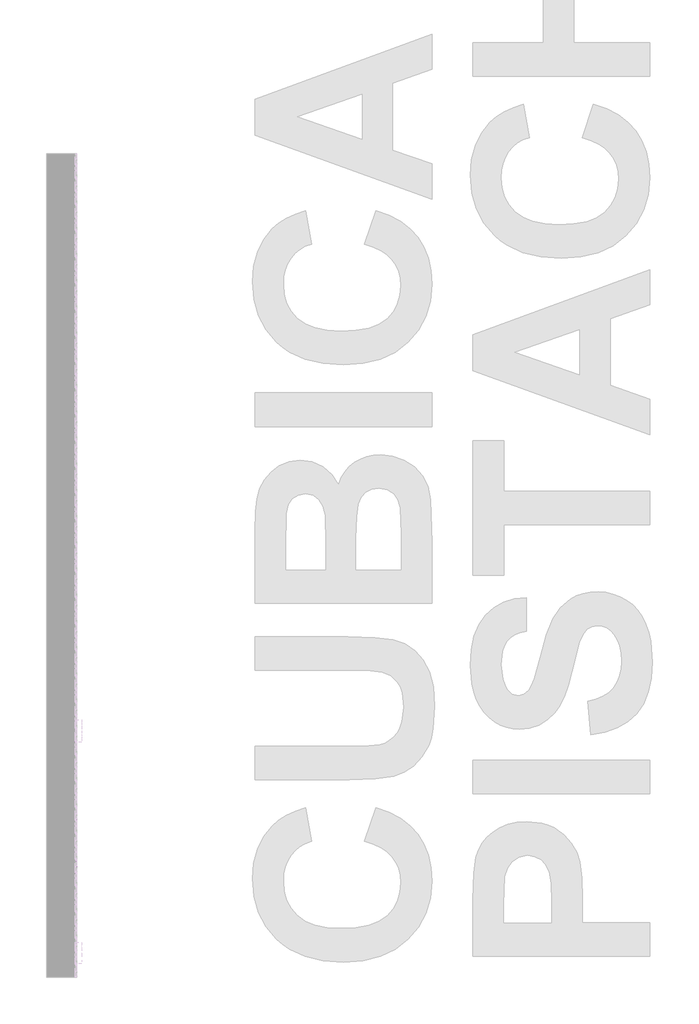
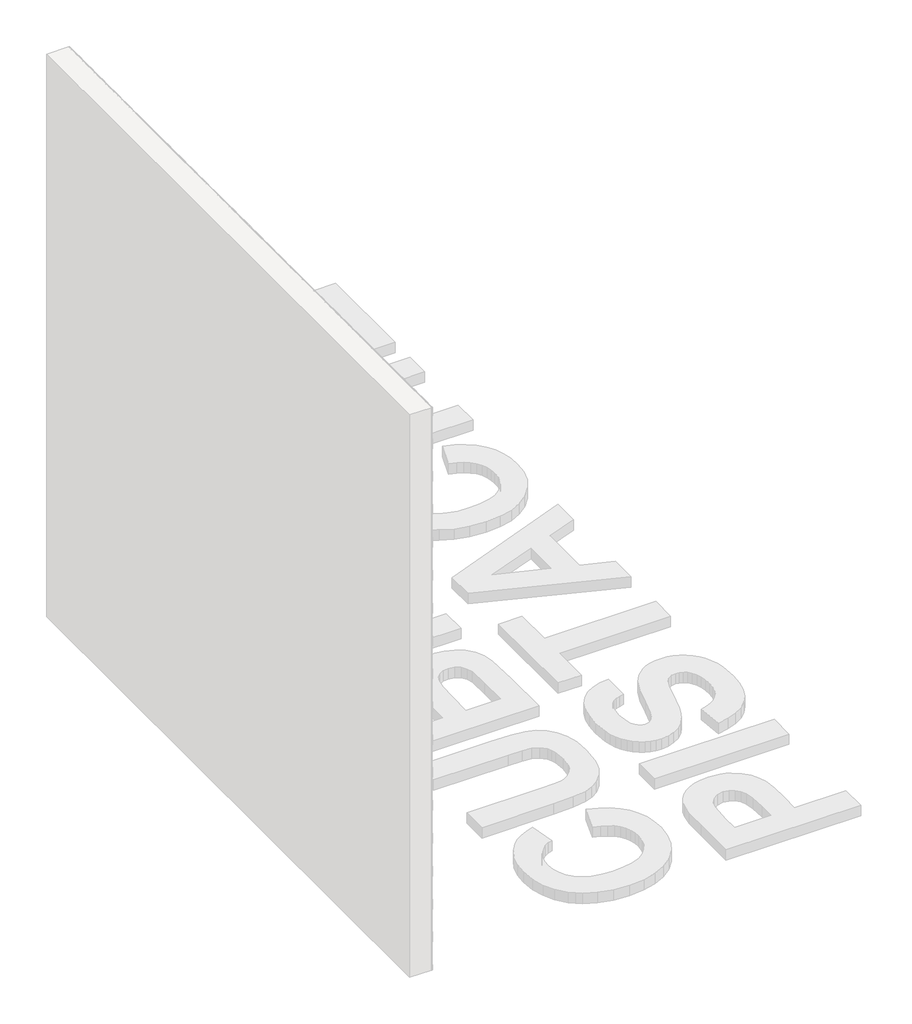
# One storey, part 80 of 121: 145 proxies.
"""IFC4 building model written with IfcOpenShell, lengths in millimetres."""

from ifc_helpers import new_model, si_unit, origin, place, context, project, spatial, transform, mapped, element, save
from components import generic_models_b2b2c5c1, generic_models_9bf73f6f, generic_models_5d175859

model = new_model("IFC4")

# Units and contexts
model_context = context("Model", 3, world=origin())
ifc_project = project(units=[si_unit("LENGTHUNIT", "METRE", prefix="MILLI")], contexts=[model_context])

# Site, building, storey
site = spatial("IfcSite", under=ifc_project)
building = spatial("IfcBuilding", under=site)
storey = spatial("IfcBuildingStorey", under=building, Name="PORTOBELLO - SHOWROOM", Elevation=0.0)

# Proxies
placement = place(None, origin())
generic_models_shape = generic_models_b2b2c5c1(model_context)
element("IfcBuildingElementProxy", 1, Name="PBSHOP - CUBICA PISTACHE 4,8X8,3 : CUBICA PISTACHE - POSIÇÃO 01", ObjectType="PBSHOP - CUBICA PISTACHE 4,8X8,3 : CUBICA PISTACHE - POSIÇÃO 01", at=placement, inside=storey, context=model_context, shape_type="MappedRepresentation", body=[
    mapped(generic_models_shape, transform((150369.5341846, 13296.1637264, 1539.1802959), x_axis=(0.0, 1.0, 0.0), y_axis=(0.0, 0.0, 1.0), z_axis=(1.0, 0.0, 0.0))),
])
element("IfcBuildingElementProxy", 2, Name="PBSHOP - CUBICA PISTACHE 4,8X8,3 : CUBICA PISTACHE - POSIÇÃO 01", ObjectType="PBSHOP - CUBICA PISTACHE 4,8X8,3 : CUBICA PISTACHE - POSIÇÃO 01", at=placement, inside=storey, context=model_context, shape_type="MappedRepresentation", body=[
    mapped(generic_models_shape, transform((150369.5341846, 13387.0029957, 1539.1802959), x_axis=(0.0, 1.0, 0.0), y_axis=(0.0, 0.0, 1.0), z_axis=(1.0, 0.0, 0.0))),
])
element("IfcBuildingElementProxy", 3, Name="PBSHOP - CUBICA PISTACHE 4,8X8,3 : CUBICA PISTACHE - POSIÇÃO 01", ObjectType="PBSHOP - CUBICA PISTACHE 4,8X8,3 : CUBICA PISTACHE - POSIÇÃO 01", at=placement, inside=storey, context=model_context, shape_type="MappedRepresentation", body=[
    mapped(generic_models_shape, transform((150369.5341846, 13477.8422649, 1539.1802959), x_axis=(0.0, 1.0, 0.0), y_axis=(0.0, 0.0, 1.0), z_axis=(1.0, 0.0, 0.0))),
])
element("IfcBuildingElementProxy", 4, Name="PBSHOP - CUBICA PISTACHE 4,8X8,3 : CUBICA PISTACHE - POSIÇÃO 01", ObjectType="PBSHOP - CUBICA PISTACHE 4,8X8,3 : CUBICA PISTACHE - POSIÇÃO 01", at=placement, inside=storey, context=model_context, shape_type="MappedRepresentation", body=[
    mapped(generic_models_shape, transform((150369.5341846, 13568.6815341, 1539.1802959), x_axis=(0.0, 1.0, 0.0), y_axis=(0.0, 0.0, 1.0), z_axis=(1.0, 0.0, 0.0))),
])
element("IfcBuildingElementProxy", 5, Name="PBSHOP - CUBICA PISTACHE 4,8X8,3 : CUBICA PISTACHE - POSIÇÃO 01", ObjectType="PBSHOP - CUBICA PISTACHE 4,8X8,3 : CUBICA PISTACHE - POSIÇÃO 01", at=placement, inside=storey, context=model_context, shape_type="MappedRepresentation", body=[
    mapped(generic_models_shape, transform((150369.5341846, 13659.5208034, 1539.1802959), x_axis=(0.0, 1.0, 0.0), y_axis=(0.0, 0.0, 1.0), z_axis=(1.0, 0.0, 0.0))),
])
element("IfcBuildingElementProxy", 6, Name="PBSHOP - CUBICA PISTACHE 4,8X8,3 : CUBICA PISTACHE - POSIÇÃO 01", ObjectType="PBSHOP - CUBICA PISTACHE 4,8X8,3 : CUBICA PISTACHE - POSIÇÃO 01", at=placement, inside=storey, context=model_context, shape_type="MappedRepresentation", body=[
    mapped(generic_models_shape, transform((150369.5341846, 13750.3600726, 1539.1802959), x_axis=(0.0, 1.0, 0.0), y_axis=(0.0, 0.0, 1.0), z_axis=(1.0, 0.0, 0.0))),
])
element("IfcBuildingElementProxy", 7, Name="PBSHOP - CUBICA PISTACHE 4,8X8,3 : CUBICA PISTACHE - POSIÇÃO 01", ObjectType="PBSHOP - CUBICA PISTACHE 4,8X8,3 : CUBICA PISTACHE - POSIÇÃO 01", at=placement, inside=storey, context=model_context, shape_type="MappedRepresentation", body=[
    mapped(generic_models_shape, transform((150369.5341846, 13841.1993419, 1539.1802959), x_axis=(0.0, 1.0, 0.0), y_axis=(0.0, 0.0, 1.0), z_axis=(1.0, 0.0, 0.0))),
])
element("IfcBuildingElementProxy", 8, Name="PBSHOP - CUBICA PISTACHE 4,8X8,3 : CUBICA PISTACHE - POSIÇÃO 01", ObjectType="PBSHOP - CUBICA PISTACHE 4,8X8,3 : CUBICA PISTACHE - POSIÇÃO 01", at=placement, inside=storey, context=model_context, shape_type="MappedRepresentation", body=[
    mapped(generic_models_shape, transform((150369.5341846, 13932.0386111, 1539.1802959), x_axis=(0.0, 1.0, 0.0), y_axis=(0.0, 0.0, 1.0), z_axis=(1.0, 0.0, 0.0))),
])
element("IfcBuildingElementProxy", 9, Name="PBSHOP - CUBICA PISTACHE 4,8X8,3 : CUBICA PISTACHE - POSIÇÃO 01", ObjectType="PBSHOP - CUBICA PISTACHE 4,8X8,3 : CUBICA PISTACHE - POSIÇÃO 01", at=placement, inside=storey, context=model_context, shape_type="MappedRepresentation", body=[
    mapped(generic_models_shape, transform((150369.5341846, 13069.0655533, 1618.1149343), x_axis=(0.0, 1.0, 0.0), y_axis=(0.0, 0.0, 1.0), z_axis=(1.0, 0.0, 0.0))),
])
element("IfcBuildingElementProxy", 10, Name="PBSHOP - CUBICA PISTACHE 4,8X8,3 : CUBICA PISTACHE - POSIÇÃO 01", ObjectType="PBSHOP - CUBICA PISTACHE 4,8X8,3 : CUBICA PISTACHE - POSIÇÃO 01", at=placement, inside=storey, context=model_context, shape_type="MappedRepresentation", body=[
    mapped(generic_models_shape, transform((150369.5341846, 13159.9048225, 1618.1149343), x_axis=(0.0, 1.0, 0.0), y_axis=(0.0, 0.0, 1.0), z_axis=(1.0, 0.0, 0.0))),
])
element("IfcBuildingElementProxy", 11, Name="PBSHOP - CUBICA PISTACHE 4,8X8,3 : CUBICA PISTACHE - POSIÇÃO 01", ObjectType="PBSHOP - CUBICA PISTACHE 4,8X8,3 : CUBICA PISTACHE - POSIÇÃO 01", at=placement, inside=storey, context=model_context, shape_type="MappedRepresentation", body=[
    mapped(generic_models_shape, transform((150369.5341846, 13250.7440918, 1618.1149343), x_axis=(0.0, 1.0, 0.0), y_axis=(0.0, 0.0, 1.0), z_axis=(1.0, 0.0, 0.0))),
])
element("IfcBuildingElementProxy", 12, Name="PBSHOP - CUBICA PISTACHE 4,8X8,3 : CUBICA PISTACHE - POSIÇÃO 01", ObjectType="PBSHOP - CUBICA PISTACHE 4,8X8,3 : CUBICA PISTACHE - POSIÇÃO 01", at=placement, inside=storey, context=model_context, shape_type="MappedRepresentation", body=[
    mapped(generic_models_shape, transform((150369.5341846, 13341.583361, 1618.1149343), x_axis=(0.0, 1.0, 0.0), y_axis=(0.0, 0.0, 1.0), z_axis=(1.0, 0.0, 0.0))),
])
element("IfcBuildingElementProxy", 13, Name="PBSHOP - CUBICA PISTACHE 4,8X8,3 : CUBICA PISTACHE - POSIÇÃO 01", ObjectType="PBSHOP - CUBICA PISTACHE 4,8X8,3 : CUBICA PISTACHE - POSIÇÃO 01", at=placement, inside=storey, context=model_context, shape_type="MappedRepresentation", body=[
    mapped(generic_models_shape, transform((150369.5341846, 13432.4226303, 1618.1149343), x_axis=(0.0, 1.0, 0.0), y_axis=(0.0, 0.0, 1.0), z_axis=(1.0, 0.0, 0.0))),
])
element("IfcBuildingElementProxy", 14, Name="PBSHOP - CUBICA PISTACHE 4,8X8,3 : CUBICA PISTACHE - POSIÇÃO 01", ObjectType="PBSHOP - CUBICA PISTACHE 4,8X8,3 : CUBICA PISTACHE - POSIÇÃO 01", at=placement, inside=storey, context=model_context, shape_type="MappedRepresentation", body=[
    mapped(generic_models_shape, transform((150369.5341846, 13523.2618995, 1618.1149343), x_axis=(0.0, 1.0, 0.0), y_axis=(0.0, 0.0, 1.0), z_axis=(1.0, 0.0, 0.0))),
])
element("IfcBuildingElementProxy", 15, Name="PBSHOP - CUBICA PISTACHE 4,8X8,3 : CUBICA PISTACHE - POSIÇÃO 01", ObjectType="PBSHOP - CUBICA PISTACHE 4,8X8,3 : CUBICA PISTACHE - POSIÇÃO 01", at=placement, inside=storey, context=model_context, shape_type="MappedRepresentation", body=[
    mapped(generic_models_shape, transform((150369.5341846, 13614.1011688, 1618.1149343), x_axis=(0.0, 1.0, 0.0), y_axis=(0.0, 0.0, 1.0), z_axis=(1.0, 0.0, 0.0))),
])
element("IfcBuildingElementProxy", 16, Name="PBSHOP - CUBICA PISTACHE 4,8X8,3 : CUBICA PISTACHE - POSIÇÃO 01", ObjectType="PBSHOP - CUBICA PISTACHE 4,8X8,3 : CUBICA PISTACHE - POSIÇÃO 01", at=placement, inside=storey, context=model_context, shape_type="MappedRepresentation", body=[
    mapped(generic_models_shape, transform((150369.5341846, 13704.940438, 1618.1149343), x_axis=(0.0, 1.0, 0.0), y_axis=(0.0, 0.0, 1.0), z_axis=(1.0, 0.0, 0.0))),
])
element("IfcBuildingElementProxy", 17, Name="PBSHOP - CUBICA PISTACHE 4,8X8,3 : CUBICA PISTACHE - POSIÇÃO 01", ObjectType="PBSHOP - CUBICA PISTACHE 4,8X8,3 : CUBICA PISTACHE - POSIÇÃO 01", at=placement, inside=storey, context=model_context, shape_type="MappedRepresentation", body=[
    mapped(generic_models_shape, transform((150369.5341846, 13795.7797073, 1618.1149343), x_axis=(0.0, 1.0, 0.0), y_axis=(0.0, 0.0, 1.0), z_axis=(1.0, 0.0, 0.0))),
])
element("IfcBuildingElementProxy", 18, Name="PBSHOP - CUBICA PISTACHE 4,8X8,3 : CUBICA PISTACHE - POSIÇÃO 01", ObjectType="PBSHOP - CUBICA PISTACHE 4,8X8,3 : CUBICA PISTACHE - POSIÇÃO 01", at=placement, inside=storey, context=model_context, shape_type="MappedRepresentation", body=[
    mapped(generic_models_shape, transform((150369.5341846, 13886.6189765, 1618.1149343), x_axis=(0.0, 1.0, 0.0), y_axis=(0.0, 0.0, 1.0), z_axis=(1.0, 0.0, 0.0))),
])
element("IfcBuildingElementProxy", 19, Name="PBSHOP - CUBICA PISTACHE 4,8X8,3 : CUBICA PISTACHE - POSIÇÃO 01", ObjectType="PBSHOP - CUBICA PISTACHE 4,8X8,3 : CUBICA PISTACHE - POSIÇÃO 01", at=placement, inside=storey, context=model_context, shape_type="MappedRepresentation", body=[
    mapped(generic_models_shape, transform((150369.5341846, 13977.4582457, 1618.1149343), x_axis=(0.0, 1.0, 0.0), y_axis=(0.0, 0.0, 1.0), z_axis=(1.0, 0.0, 0.0))),
])
element("IfcBuildingElementProxy", 20, Name="PBSHOP - CUBICA PISTACHE 4,8X8,3 : CUBICA PISTACHE - POSIÇÃO 01", ObjectType="PBSHOP - CUBICA PISTACHE 4,8X8,3 : CUBICA PISTACHE - POSIÇÃO 01", at=placement, inside=storey, context=model_context, shape_type="MappedRepresentation", body=[
    mapped(generic_models_shape, transform((150369.5341846, 13023.6459187, 1697.0495727), x_axis=(0.0, 1.0, 0.0), y_axis=(0.0, 0.0, 1.0), z_axis=(1.0, 0.0, 0.0))),
])
element("IfcBuildingElementProxy", 21, Name="PBSHOP - CUBICA PISTACHE 4,8X8,3 : CUBICA PISTACHE - POSIÇÃO 01", ObjectType="PBSHOP - CUBICA PISTACHE 4,8X8,3 : CUBICA PISTACHE - POSIÇÃO 01", at=placement, inside=storey, context=model_context, shape_type="MappedRepresentation", body=[
    mapped(generic_models_shape, transform((150369.5341846, 13114.4851879, 1697.0495727), x_axis=(0.0, 1.0, 0.0), y_axis=(0.0, 0.0, 1.0), z_axis=(1.0, 0.0, 0.0))),
])
element("IfcBuildingElementProxy", 22, Name="PBSHOP - CUBICA PISTACHE 4,8X8,3 : CUBICA PISTACHE - POSIÇÃO 01", ObjectType="PBSHOP - CUBICA PISTACHE 4,8X8,3 : CUBICA PISTACHE - POSIÇÃO 01", at=placement, inside=storey, context=model_context, shape_type="MappedRepresentation", body=[
    mapped(generic_models_shape, transform((150369.5341846, 13205.3244572, 1697.0495727), x_axis=(0.0, 1.0, 0.0), y_axis=(0.0, 0.0, 1.0), z_axis=(1.0, 0.0, 0.0))),
])
element("IfcBuildingElementProxy", 23, Name="PBSHOP - CUBICA PISTACHE 4,8X8,3 : CUBICA PISTACHE - POSIÇÃO 01", ObjectType="PBSHOP - CUBICA PISTACHE 4,8X8,3 : CUBICA PISTACHE - POSIÇÃO 01", at=placement, inside=storey, context=model_context, shape_type="MappedRepresentation", body=[
    mapped(generic_models_shape, transform((150369.5341846, 13296.1637264, 1697.0495727), x_axis=(0.0, 1.0, 0.0), y_axis=(0.0, 0.0, 1.0), z_axis=(1.0, 0.0, 0.0))),
])
element("IfcBuildingElementProxy", 24, Name="PBSHOP - CUBICA PISTACHE 4,8X8,3 : CUBICA PISTACHE - POSIÇÃO 01", ObjectType="PBSHOP - CUBICA PISTACHE 4,8X8,3 : CUBICA PISTACHE - POSIÇÃO 01", at=placement, inside=storey, context=model_context, shape_type="MappedRepresentation", body=[
    mapped(generic_models_shape, transform((150369.5341846, 13387.0029957, 1697.0495727), x_axis=(0.0, 1.0, 0.0), y_axis=(0.0, 0.0, 1.0), z_axis=(1.0, 0.0, 0.0))),
])
element("IfcBuildingElementProxy", 25, Name="PBSHOP - CUBICA PISTACHE 4,8X8,3 : CUBICA PISTACHE - POSIÇÃO 01", ObjectType="PBSHOP - CUBICA PISTACHE 4,8X8,3 : CUBICA PISTACHE - POSIÇÃO 01", at=placement, inside=storey, context=model_context, shape_type="MappedRepresentation", body=[
    mapped(generic_models_shape, transform((150369.5341846, 13477.8422649, 1697.0495727), x_axis=(0.0, 1.0, 0.0), y_axis=(0.0, 0.0, 1.0), z_axis=(1.0, 0.0, 0.0))),
])
element("IfcBuildingElementProxy", 26, Name="PBSHOP - CUBICA PISTACHE 4,8X8,3 : CUBICA PISTACHE - POSIÇÃO 01", ObjectType="PBSHOP - CUBICA PISTACHE 4,8X8,3 : CUBICA PISTACHE - POSIÇÃO 01", at=placement, inside=storey, context=model_context, shape_type="MappedRepresentation", body=[
    mapped(generic_models_shape, transform((150369.5341846, 13568.6815341, 1697.0495727), x_axis=(0.0, 1.0, 0.0), y_axis=(0.0, 0.0, 1.0), z_axis=(1.0, 0.0, 0.0))),
])
element("IfcBuildingElementProxy", 27, Name="PBSHOP - CUBICA PISTACHE 4,8X8,3 : CUBICA PISTACHE - POSIÇÃO 01", ObjectType="PBSHOP - CUBICA PISTACHE 4,8X8,3 : CUBICA PISTACHE - POSIÇÃO 01", at=placement, inside=storey, context=model_context, shape_type="MappedRepresentation", body=[
    mapped(generic_models_shape, transform((150369.5341846, 13659.5208034, 1697.0495727), x_axis=(0.0, 1.0, 0.0), y_axis=(0.0, 0.0, 1.0), z_axis=(1.0, 0.0, 0.0))),
])
element("IfcBuildingElementProxy", 28, Name="PBSHOP - CUBICA PISTACHE 4,8X8,3 : CUBICA PISTACHE - POSIÇÃO 01", ObjectType="PBSHOP - CUBICA PISTACHE 4,8X8,3 : CUBICA PISTACHE - POSIÇÃO 01", at=placement, inside=storey, context=model_context, shape_type="MappedRepresentation", body=[
    mapped(generic_models_shape, transform((150369.5341846, 13750.3600726, 1697.0495727), x_axis=(0.0, 1.0, 0.0), y_axis=(0.0, 0.0, 1.0), z_axis=(1.0, 0.0, 0.0))),
])
element("IfcBuildingElementProxy", 29, Name="PBSHOP - CUBICA PISTACHE 4,8X8,3 : CUBICA PISTACHE - POSIÇÃO 01", ObjectType="PBSHOP - CUBICA PISTACHE 4,8X8,3 : CUBICA PISTACHE - POSIÇÃO 01", at=placement, inside=storey, context=model_context, shape_type="MappedRepresentation", body=[
    mapped(generic_models_shape, transform((150369.5341846, 13841.1993419, 1697.0495727), x_axis=(0.0, 1.0, 0.0), y_axis=(0.0, 0.0, 1.0), z_axis=(1.0, 0.0, 0.0))),
])
element("IfcBuildingElementProxy", 30, Name="PBSHOP - CUBICA PISTACHE 4,8X8,3 : CUBICA PISTACHE - POSIÇÃO 01", ObjectType="PBSHOP - CUBICA PISTACHE 4,8X8,3 : CUBICA PISTACHE - POSIÇÃO 01", at=placement, inside=storey, context=model_context, shape_type="MappedRepresentation", body=[
    mapped(generic_models_shape, transform((150369.5341846, 13932.0386111, 1697.0495727), x_axis=(0.0, 1.0, 0.0), y_axis=(0.0, 0.0, 1.0), z_axis=(1.0, 0.0, 0.0))),
])
element("IfcBuildingElementProxy", 31, Name="PBSHOP - CUBICA PISTACHE 4,8X8,3 : CUBICA PISTACHE - POSIÇÃO 01", ObjectType="PBSHOP - CUBICA PISTACHE 4,8X8,3 : CUBICA PISTACHE - POSIÇÃO 01", at=placement, inside=storey, context=model_context, shape_type="MappedRepresentation", body=[
    mapped(generic_models_shape, transform((150369.5341846, 13069.0655533, 1775.984211), x_axis=(0.0, 1.0, 0.0), y_axis=(0.0, 0.0, 1.0), z_axis=(1.0, 0.0, 0.0))),
])
element("IfcBuildingElementProxy", 32, Name="PBSHOP - CUBICA PISTACHE 4,8X8,3 : CUBICA PISTACHE - POSIÇÃO 01", ObjectType="PBSHOP - CUBICA PISTACHE 4,8X8,3 : CUBICA PISTACHE - POSIÇÃO 01", at=placement, inside=storey, context=model_context, shape_type="MappedRepresentation", body=[
    mapped(generic_models_shape, transform((150369.5341846, 13159.9048225, 1775.984211), x_axis=(0.0, 1.0, 0.0), y_axis=(0.0, 0.0, 1.0), z_axis=(1.0, 0.0, 0.0))),
])
element("IfcBuildingElementProxy", 33, Name="PBSHOP - CUBICA PISTACHE 4,8X8,3 : CUBICA PISTACHE - POSIÇÃO 01", ObjectType="PBSHOP - CUBICA PISTACHE 4,8X8,3 : CUBICA PISTACHE - POSIÇÃO 01", at=placement, inside=storey, context=model_context, shape_type="MappedRepresentation", body=[
    mapped(generic_models_shape, transform((150369.5341846, 13250.7440918, 1775.984211), x_axis=(0.0, 1.0, 0.0), y_axis=(0.0, 0.0, 1.0), z_axis=(1.0, 0.0, 0.0))),
])
element("IfcBuildingElementProxy", 34, Name="PBSHOP - CUBICA PISTACHE 4,8X8,3 : CUBICA PISTACHE - POSIÇÃO 01", ObjectType="PBSHOP - CUBICA PISTACHE 4,8X8,3 : CUBICA PISTACHE - POSIÇÃO 01", at=placement, inside=storey, context=model_context, shape_type="MappedRepresentation", body=[
    mapped(generic_models_shape, transform((150369.5341846, 13341.583361, 1775.984211), x_axis=(0.0, 1.0, 0.0), y_axis=(0.0, 0.0, 1.0), z_axis=(1.0, 0.0, 0.0))),
])
element("IfcBuildingElementProxy", 35, Name="PBSHOP - CUBICA PISTACHE 4,8X8,3 : CUBICA PISTACHE - POSIÇÃO 01", ObjectType="PBSHOP - CUBICA PISTACHE 4,8X8,3 : CUBICA PISTACHE - POSIÇÃO 01", at=placement, inside=storey, context=model_context, shape_type="MappedRepresentation", body=[
    mapped(generic_models_shape, transform((150369.5341846, 13432.4226303, 1775.984211), x_axis=(0.0, 1.0, 0.0), y_axis=(0.0, 0.0, 1.0), z_axis=(1.0, 0.0, 0.0))),
])
element("IfcBuildingElementProxy", 36, Name="PBSHOP - CUBICA PISTACHE 4,8X8,3 : CUBICA PISTACHE - POSIÇÃO 01", ObjectType="PBSHOP - CUBICA PISTACHE 4,8X8,3 : CUBICA PISTACHE - POSIÇÃO 01", at=placement, inside=storey, context=model_context, shape_type="MappedRepresentation", body=[
    mapped(generic_models_shape, transform((150369.5341846, 13523.2618995, 1775.984211), x_axis=(0.0, 1.0, 0.0), y_axis=(0.0, 0.0, 1.0), z_axis=(1.0, 0.0, 0.0))),
])
element("IfcBuildingElementProxy", 37, Name="PBSHOP - CUBICA PISTACHE 4,8X8,3 : CUBICA PISTACHE - POSIÇÃO 01", ObjectType="PBSHOP - CUBICA PISTACHE 4,8X8,3 : CUBICA PISTACHE - POSIÇÃO 01", at=placement, inside=storey, context=model_context, shape_type="MappedRepresentation", body=[
    mapped(generic_models_shape, transform((150369.5341846, 13614.1011688, 1775.984211), x_axis=(0.0, 1.0, 0.0), y_axis=(0.0, 0.0, 1.0), z_axis=(1.0, 0.0, 0.0))),
])
element("IfcBuildingElementProxy", 38, Name="PBSHOP - CUBICA PISTACHE 4,8X8,3 : CUBICA PISTACHE - POSIÇÃO 01", ObjectType="PBSHOP - CUBICA PISTACHE 4,8X8,3 : CUBICA PISTACHE - POSIÇÃO 01", at=placement, inside=storey, context=model_context, shape_type="MappedRepresentation", body=[
    mapped(generic_models_shape, transform((150369.5341846, 13704.940438, 1775.984211), x_axis=(0.0, 1.0, 0.0), y_axis=(0.0, 0.0, 1.0), z_axis=(1.0, 0.0, 0.0))),
])
element("IfcBuildingElementProxy", 39, Name="PBSHOP - CUBICA PISTACHE 4,8X8,3 : CUBICA PISTACHE - POSIÇÃO 01", ObjectType="PBSHOP - CUBICA PISTACHE 4,8X8,3 : CUBICA PISTACHE - POSIÇÃO 01", at=placement, inside=storey, context=model_context, shape_type="MappedRepresentation", body=[
    mapped(generic_models_shape, transform((150369.5341846, 13795.7797073, 1775.984211), x_axis=(0.0, 1.0, 0.0), y_axis=(0.0, 0.0, 1.0), z_axis=(1.0, 0.0, 0.0))),
])
element("IfcBuildingElementProxy", 40, Name="PBSHOP - CUBICA PISTACHE 4,8X8,3 : CUBICA PISTACHE - POSIÇÃO 01", ObjectType="PBSHOP - CUBICA PISTACHE 4,8X8,3 : CUBICA PISTACHE - POSIÇÃO 01", at=placement, inside=storey, context=model_context, shape_type="MappedRepresentation", body=[
    mapped(generic_models_shape, transform((150369.5341846, 13886.6189765, 1775.984211), x_axis=(0.0, 1.0, 0.0), y_axis=(0.0, 0.0, 1.0), z_axis=(1.0, 0.0, 0.0))),
])
element("IfcBuildingElementProxy", 41, Name="PBSHOP - CUBICA PISTACHE 4,8X8,3 : CUBICA PISTACHE - POSIÇÃO 01", ObjectType="PBSHOP - CUBICA PISTACHE 4,8X8,3 : CUBICA PISTACHE - POSIÇÃO 01", at=placement, inside=storey, context=model_context, shape_type="MappedRepresentation", body=[
    mapped(generic_models_shape, transform((150369.5341846, 13977.4582457, 1775.984211), x_axis=(0.0, 1.0, 0.0), y_axis=(0.0, 0.0, 1.0), z_axis=(1.0, 0.0, 0.0))),
])
element("IfcBuildingElementProxy", 42, Name="PBSHOP - CUBICA PISTACHE 4,8X8,3 : CUBICA PISTACHE - POSIÇÃO 01", ObjectType="PBSHOP - CUBICA PISTACHE 4,8X8,3 : CUBICA PISTACHE - POSIÇÃO 01", at=placement, inside=storey, context=model_context, shape_type="MappedRepresentation", body=[
    mapped(generic_models_shape, transform((150369.5341846, 13023.6459187, 1854.9188494), x_axis=(0.0, 1.0, 0.0), y_axis=(0.0, 0.0, 1.0), z_axis=(1.0, 0.0, 0.0))),
])
element("IfcBuildingElementProxy", 43, Name="PBSHOP - CUBICA PISTACHE 4,8X8,3 : CUBICA PISTACHE - POSIÇÃO 01", ObjectType="PBSHOP - CUBICA PISTACHE 4,8X8,3 : CUBICA PISTACHE - POSIÇÃO 01", at=placement, inside=storey, context=model_context, shape_type="MappedRepresentation", body=[
    mapped(generic_models_shape, transform((150369.5341846, 13114.4851879, 1854.9188494), x_axis=(0.0, 1.0, 0.0), y_axis=(0.0, 0.0, 1.0), z_axis=(1.0, 0.0, 0.0))),
])
element("IfcBuildingElementProxy", 44, Name="PBSHOP - CUBICA PISTACHE 4,8X8,3 : CUBICA PISTACHE - POSIÇÃO 01", ObjectType="PBSHOP - CUBICA PISTACHE 4,8X8,3 : CUBICA PISTACHE - POSIÇÃO 01", at=placement, inside=storey, context=model_context, shape_type="MappedRepresentation", body=[
    mapped(generic_models_shape, transform((150369.5341846, 13205.3244572, 1854.9188494), x_axis=(0.0, 1.0, 0.0), y_axis=(0.0, 0.0, 1.0), z_axis=(1.0, 0.0, 0.0))),
])
element("IfcBuildingElementProxy", 45, Name="PBSHOP - CUBICA PISTACHE 4,8X8,3 : CUBICA PISTACHE - POSIÇÃO 01", ObjectType="PBSHOP - CUBICA PISTACHE 4,8X8,3 : CUBICA PISTACHE - POSIÇÃO 01", at=placement, inside=storey, context=model_context, shape_type="MappedRepresentation", body=[
    mapped(generic_models_shape, transform((150369.5341846, 13296.1637264, 1854.9188494), x_axis=(0.0, 1.0, 0.0), y_axis=(0.0, 0.0, 1.0), z_axis=(1.0, 0.0, 0.0))),
])
element("IfcBuildingElementProxy", 46, Name="PBSHOP - CUBICA PISTACHE 4,8X8,3 : CUBICA PISTACHE - POSIÇÃO 01", ObjectType="PBSHOP - CUBICA PISTACHE 4,8X8,3 : CUBICA PISTACHE - POSIÇÃO 01", at=placement, inside=storey, context=model_context, shape_type="MappedRepresentation", body=[
    mapped(generic_models_shape, transform((150369.5341846, 13387.0029957, 1854.9188494), x_axis=(0.0, 1.0, 0.0), y_axis=(0.0, 0.0, 1.0), z_axis=(1.0, 0.0, 0.0))),
])
element("IfcBuildingElementProxy", 47, Name="PBSHOP - CUBICA PISTACHE 4,8X8,3 : CUBICA PISTACHE - POSIÇÃO 01", ObjectType="PBSHOP - CUBICA PISTACHE 4,8X8,3 : CUBICA PISTACHE - POSIÇÃO 01", at=placement, inside=storey, context=model_context, shape_type="MappedRepresentation", body=[
    mapped(generic_models_shape, transform((150369.5341846, 13477.8422649, 1854.9188494), x_axis=(0.0, 1.0, 0.0), y_axis=(0.0, 0.0, 1.0), z_axis=(1.0, 0.0, 0.0))),
])
element("IfcBuildingElementProxy", 48, Name="PBSHOP - CUBICA PISTACHE 4,8X8,3 : CUBICA PISTACHE - POSIÇÃO 01", ObjectType="PBSHOP - CUBICA PISTACHE 4,8X8,3 : CUBICA PISTACHE - POSIÇÃO 01", at=placement, inside=storey, context=model_context, shape_type="MappedRepresentation", body=[
    mapped(generic_models_shape, transform((150369.5341846, 13568.6815341, 1854.9188494), x_axis=(0.0, 1.0, 0.0), y_axis=(0.0, 0.0, 1.0), z_axis=(1.0, 0.0, 0.0))),
])
element("IfcBuildingElementProxy", 49, Name="PBSHOP - CUBICA PISTACHE 4,8X8,3 : CUBICA PISTACHE - POSIÇÃO 01", ObjectType="PBSHOP - CUBICA PISTACHE 4,8X8,3 : CUBICA PISTACHE - POSIÇÃO 01", at=placement, inside=storey, context=model_context, shape_type="MappedRepresentation", body=[
    mapped(generic_models_shape, transform((150369.5341846, 13659.5208034, 1854.9188494), x_axis=(0.0, 1.0, 0.0), y_axis=(0.0, 0.0, 1.0), z_axis=(1.0, 0.0, 0.0))),
])
element("IfcBuildingElementProxy", 50, Name="PBSHOP - CUBICA PISTACHE 4,8X8,3 : CUBICA PISTACHE - POSIÇÃO 01", ObjectType="PBSHOP - CUBICA PISTACHE 4,8X8,3 : CUBICA PISTACHE - POSIÇÃO 01", at=placement, inside=storey, context=model_context, shape_type="MappedRepresentation", body=[
    mapped(generic_models_shape, transform((150369.5341846, 13750.3600726, 1854.9188494), x_axis=(0.0, 1.0, 0.0), y_axis=(0.0, 0.0, 1.0), z_axis=(1.0, 0.0, 0.0))),
])
generic_models_2_shape = generic_models_9bf73f6f(model_context)
element("IfcBuildingElementProxy", 51, Name="PBSHOP - CUBICA PISTACHE 4,8X8,3 : CUBICA PISTACHE - POSIÇÃO 03", ObjectType="PBSHOP - CUBICA PISTACHE 4,8X8,3 : CUBICA PISTACHE - POSIÇÃO 03", at=placement, inside=storey, context=model_context, shape_type="MappedRepresentation", body=[
    mapped(generic_models_2_shape, transform((150369.5341846, 13000.9382605, 1499.6717663), x_axis=(0.0, 1.0, 0.0), y_axis=(0.0, 0.0, 1.0), z_axis=(1.0, 0.0, 0.0))),
])
element("IfcBuildingElementProxy", 52, Name="PBSHOP - CUBICA PISTACHE 4,8X8,3 : CUBICA PISTACHE - POSIÇÃO 03", ObjectType="PBSHOP - CUBICA PISTACHE 4,8X8,3 : CUBICA PISTACHE - POSIÇÃO 03", at=placement, inside=storey, context=model_context, shape_type="MappedRepresentation", body=[
    mapped(generic_models_2_shape, transform((150369.5341846, 13091.7775298, 1499.6717663), x_axis=(0.0, 1.0, 0.0), y_axis=(0.0, 0.0, 1.0), z_axis=(1.0, 0.0, 0.0))),
])
element("IfcBuildingElementProxy", 53, Name="PBSHOP - CUBICA PISTACHE 4,8X8,3 : CUBICA PISTACHE - POSIÇÃO 03", ObjectType="PBSHOP - CUBICA PISTACHE 4,8X8,3 : CUBICA PISTACHE - POSIÇÃO 03", at=placement, inside=storey, context=model_context, shape_type="MappedRepresentation", body=[
    mapped(generic_models_2_shape, transform((150369.5341846, 13182.616799, 1499.6717663), x_axis=(0.0, 1.0, 0.0), y_axis=(0.0, 0.0, 1.0), z_axis=(1.0, 0.0, 0.0))),
])
element("IfcBuildingElementProxy", 54, Name="PBSHOP - CUBICA PISTACHE 4,8X8,3 : CUBICA PISTACHE - POSIÇÃO 03", ObjectType="PBSHOP - CUBICA PISTACHE 4,8X8,3 : CUBICA PISTACHE - POSIÇÃO 03", at=placement, inside=storey, context=model_context, shape_type="MappedRepresentation", body=[
    mapped(generic_models_2_shape, transform((150369.5341846, 13273.4560683, 1499.6717663), x_axis=(0.0, 1.0, 0.0), y_axis=(0.0, 0.0, 1.0), z_axis=(1.0, 0.0, 0.0))),
])
element("IfcBuildingElementProxy", 55, Name="PBSHOP - CUBICA PISTACHE 4,8X8,3 : CUBICA PISTACHE - POSIÇÃO 03", ObjectType="PBSHOP - CUBICA PISTACHE 4,8X8,3 : CUBICA PISTACHE - POSIÇÃO 03", at=placement, inside=storey, context=model_context, shape_type="MappedRepresentation", body=[
    mapped(generic_models_2_shape, transform((150369.5341846, 13364.2953375, 1499.6717663), x_axis=(0.0, 1.0, 0.0), y_axis=(0.0, 0.0, 1.0), z_axis=(1.0, 0.0, 0.0))),
])
element("IfcBuildingElementProxy", 56, Name="PBSHOP - CUBICA PISTACHE 4,8X8,3 : CUBICA PISTACHE - POSIÇÃO 03", ObjectType="PBSHOP - CUBICA PISTACHE 4,8X8,3 : CUBICA PISTACHE - POSIÇÃO 03", at=placement, inside=storey, context=model_context, shape_type="MappedRepresentation", body=[
    mapped(generic_models_2_shape, transform((150369.5341846, 13455.1346068, 1499.6717663), x_axis=(0.0, 1.0, 0.0), y_axis=(0.0, 0.0, 1.0), z_axis=(1.0, 0.0, 0.0))),
])
element("IfcBuildingElementProxy", 57, Name="PBSHOP - CUBICA PISTACHE 4,8X8,3 : CUBICA PISTACHE - POSIÇÃO 03", ObjectType="PBSHOP - CUBICA PISTACHE 4,8X8,3 : CUBICA PISTACHE - POSIÇÃO 03", at=placement, inside=storey, context=model_context, shape_type="MappedRepresentation", body=[
    mapped(generic_models_2_shape, transform((150369.5341846, 13545.973876, 1499.6717663), x_axis=(0.0, 1.0, 0.0), y_axis=(0.0, 0.0, 1.0), z_axis=(1.0, 0.0, 0.0))),
])
element("IfcBuildingElementProxy", 58, Name="PBSHOP - CUBICA PISTACHE 4,8X8,3 : CUBICA PISTACHE - POSIÇÃO 03", ObjectType="PBSHOP - CUBICA PISTACHE 4,8X8,3 : CUBICA PISTACHE - POSIÇÃO 03", at=placement, inside=storey, context=model_context, shape_type="MappedRepresentation", body=[
    mapped(generic_models_2_shape, transform((150369.5341846, 13636.8131452, 1499.6717663), x_axis=(0.0, 1.0, 0.0), y_axis=(0.0, 0.0, 1.0), z_axis=(1.0, 0.0, 0.0))),
])
element("IfcBuildingElementProxy", 59, Name="PBSHOP - CUBICA PISTACHE 4,8X8,3 : CUBICA PISTACHE - POSIÇÃO 03", ObjectType="PBSHOP - CUBICA PISTACHE 4,8X8,3 : CUBICA PISTACHE - POSIÇÃO 03", at=placement, inside=storey, context=model_context, shape_type="MappedRepresentation", body=[
    mapped(generic_models_2_shape, transform((150369.5341846, 13727.6524145, 1499.6717663), x_axis=(0.0, 1.0, 0.0), y_axis=(0.0, 0.0, 1.0), z_axis=(1.0, 0.0, 0.0))),
])
element("IfcBuildingElementProxy", 60, Name="PBSHOP - CUBICA PISTACHE 4,8X8,3 : CUBICA PISTACHE - POSIÇÃO 03", ObjectType="PBSHOP - CUBICA PISTACHE 4,8X8,3 : CUBICA PISTACHE - POSIÇÃO 03", at=placement, inside=storey, context=model_context, shape_type="MappedRepresentation", body=[
    mapped(generic_models_2_shape, transform((150369.5341846, 13818.4916837, 1499.6717663), x_axis=(0.0, 1.0, 0.0), y_axis=(0.0, 0.0, 1.0), z_axis=(1.0, 0.0, 0.0))),
])
element("IfcBuildingElementProxy", 61, Name="PBSHOP - CUBICA PISTACHE 4,8X8,3 : CUBICA PISTACHE - POSIÇÃO 03", ObjectType="PBSHOP - CUBICA PISTACHE 4,8X8,3 : CUBICA PISTACHE - POSIÇÃO 03", at=placement, inside=storey, context=model_context, shape_type="MappedRepresentation", body=[
    mapped(generic_models_2_shape, transform((150369.5341846, 13909.330953, 1499.6717663), x_axis=(0.0, 1.0, 0.0), y_axis=(0.0, 0.0, 1.0), z_axis=(1.0, 0.0, 0.0))),
])
element("IfcBuildingElementProxy", 62, Name="PBSHOP - CUBICA PISTACHE 4,8X8,3 : CUBICA PISTACHE - POSIÇÃO 03", ObjectType="PBSHOP - CUBICA PISTACHE 4,8X8,3 : CUBICA PISTACHE - POSIÇÃO 03", at=placement, inside=storey, context=model_context, shape_type="MappedRepresentation", body=[
    mapped(generic_models_2_shape, transform((150369.5341846, 13046.3578952, 1578.6064047), x_axis=(0.0, 1.0, 0.0), y_axis=(0.0, 0.0, 1.0), z_axis=(1.0, 0.0, 0.0))),
])
element("IfcBuildingElementProxy", 63, Name="PBSHOP - CUBICA PISTACHE 4,8X8,3 : CUBICA PISTACHE - POSIÇÃO 03", ObjectType="PBSHOP - CUBICA PISTACHE 4,8X8,3 : CUBICA PISTACHE - POSIÇÃO 03", at=placement, inside=storey, context=model_context, shape_type="MappedRepresentation", body=[
    mapped(generic_models_2_shape, transform((150369.5341846, 13137.1971644, 1578.6064047), x_axis=(0.0, 1.0, 0.0), y_axis=(0.0, 0.0, 1.0), z_axis=(1.0, 0.0, 0.0))),
])
element("IfcBuildingElementProxy", 64, Name="PBSHOP - CUBICA PISTACHE 4,8X8,3 : CUBICA PISTACHE - POSIÇÃO 03", ObjectType="PBSHOP - CUBICA PISTACHE 4,8X8,3 : CUBICA PISTACHE - POSIÇÃO 03", at=placement, inside=storey, context=model_context, shape_type="MappedRepresentation", body=[
    mapped(generic_models_2_shape, transform((150369.5341846, 13228.0364336, 1578.6064047), x_axis=(0.0, 1.0, 0.0), y_axis=(0.0, 0.0, 1.0), z_axis=(1.0, 0.0, 0.0))),
])
element("IfcBuildingElementProxy", 65, Name="PBSHOP - CUBICA PISTACHE 4,8X8,3 : CUBICA PISTACHE - POSIÇÃO 03", ObjectType="PBSHOP - CUBICA PISTACHE 4,8X8,3 : CUBICA PISTACHE - POSIÇÃO 03", at=placement, inside=storey, context=model_context, shape_type="MappedRepresentation", body=[
    mapped(generic_models_2_shape, transform((150369.5341846, 13318.8757029, 1578.6064047), x_axis=(0.0, 1.0, 0.0), y_axis=(0.0, 0.0, 1.0), z_axis=(1.0, 0.0, 0.0))),
])
element("IfcBuildingElementProxy", 66, Name="PBSHOP - CUBICA PISTACHE 4,8X8,3 : CUBICA PISTACHE - POSIÇÃO 03", ObjectType="PBSHOP - CUBICA PISTACHE 4,8X8,3 : CUBICA PISTACHE - POSIÇÃO 03", at=placement, inside=storey, context=model_context, shape_type="MappedRepresentation", body=[
    mapped(generic_models_2_shape, transform((150369.5341846, 13409.7149721, 1578.6064047), x_axis=(0.0, 1.0, 0.0), y_axis=(0.0, 0.0, 1.0), z_axis=(1.0, 0.0, 0.0))),
])
element("IfcBuildingElementProxy", 67, Name="PBSHOP - CUBICA PISTACHE 4,8X8,3 : CUBICA PISTACHE - POSIÇÃO 03", ObjectType="PBSHOP - CUBICA PISTACHE 4,8X8,3 : CUBICA PISTACHE - POSIÇÃO 03", at=placement, inside=storey, context=model_context, shape_type="MappedRepresentation", body=[
    mapped(generic_models_2_shape, transform((150369.5341846, 13500.5542414, 1578.6064047), x_axis=(0.0, 1.0, 0.0), y_axis=(0.0, 0.0, 1.0), z_axis=(1.0, 0.0, 0.0))),
])
element("IfcBuildingElementProxy", 68, Name="PBSHOP - CUBICA PISTACHE 4,8X8,3 : CUBICA PISTACHE - POSIÇÃO 03", ObjectType="PBSHOP - CUBICA PISTACHE 4,8X8,3 : CUBICA PISTACHE - POSIÇÃO 03", at=placement, inside=storey, context=model_context, shape_type="MappedRepresentation", body=[
    mapped(generic_models_2_shape, transform((150369.5341846, 13591.3935106, 1578.6064047), x_axis=(0.0, 1.0, 0.0), y_axis=(0.0, 0.0, 1.0), z_axis=(1.0, 0.0, 0.0))),
])
element("IfcBuildingElementProxy", 69, Name="PBSHOP - CUBICA PISTACHE 4,8X8,3 : CUBICA PISTACHE - POSIÇÃO 03", ObjectType="PBSHOP - CUBICA PISTACHE 4,8X8,3 : CUBICA PISTACHE - POSIÇÃO 03", at=placement, inside=storey, context=model_context, shape_type="MappedRepresentation", body=[
    mapped(generic_models_2_shape, transform((150369.5341846, 13682.2327799, 1578.6064047), x_axis=(0.0, 1.0, 0.0), y_axis=(0.0, 0.0, 1.0), z_axis=(1.0, 0.0, 0.0))),
])
element("IfcBuildingElementProxy", 70, Name="PBSHOP - CUBICA PISTACHE 4,8X8,3 : CUBICA PISTACHE - POSIÇÃO 03", ObjectType="PBSHOP - CUBICA PISTACHE 4,8X8,3 : CUBICA PISTACHE - POSIÇÃO 03", at=placement, inside=storey, context=model_context, shape_type="MappedRepresentation", body=[
    mapped(generic_models_2_shape, transform((150369.5341846, 13773.0720491, 1578.6064047), x_axis=(0.0, 1.0, 0.0), y_axis=(0.0, 0.0, 1.0), z_axis=(1.0, 0.0, 0.0))),
])
element("IfcBuildingElementProxy", 71, Name="PBSHOP - CUBICA PISTACHE 4,8X8,3 : CUBICA PISTACHE - POSIÇÃO 03", ObjectType="PBSHOP - CUBICA PISTACHE 4,8X8,3 : CUBICA PISTACHE - POSIÇÃO 03", at=placement, inside=storey, context=model_context, shape_type="MappedRepresentation", body=[
    mapped(generic_models_2_shape, transform((150369.5341846, 13863.9113184, 1578.6064047), x_axis=(0.0, 1.0, 0.0), y_axis=(0.0, 0.0, 1.0), z_axis=(1.0, 0.0, 0.0))),
])
element("IfcBuildingElementProxy", 72, Name="PBSHOP - CUBICA PISTACHE 4,8X8,3 : CUBICA PISTACHE - POSIÇÃO 03", ObjectType="PBSHOP - CUBICA PISTACHE 4,8X8,3 : CUBICA PISTACHE - POSIÇÃO 03", at=placement, inside=storey, context=model_context, shape_type="MappedRepresentation", body=[
    mapped(generic_models_2_shape, transform((150369.5341846, 13954.7505876, 1578.6064047), x_axis=(0.0, 1.0, 0.0), y_axis=(0.0, 0.0, 1.0), z_axis=(1.0, 0.0, 0.0))),
])
element("IfcBuildingElementProxy", 73, Name="PBSHOP - CUBICA PISTACHE 4,8X8,3 : CUBICA PISTACHE - POSIÇÃO 03", ObjectType="PBSHOP - CUBICA PISTACHE 4,8X8,3 : CUBICA PISTACHE - POSIÇÃO 03", at=placement, inside=storey, context=model_context, shape_type="MappedRepresentation", body=[
    mapped(generic_models_2_shape, transform((150369.5341846, 13000.9382605, 1657.5410431), x_axis=(0.0, 1.0, 0.0), y_axis=(0.0, 0.0, 1.0), z_axis=(1.0, 0.0, 0.0))),
])
element("IfcBuildingElementProxy", 74, Name="PBSHOP - CUBICA PISTACHE 4,8X8,3 : CUBICA PISTACHE - POSIÇÃO 03", ObjectType="PBSHOP - CUBICA PISTACHE 4,8X8,3 : CUBICA PISTACHE - POSIÇÃO 03", at=placement, inside=storey, context=model_context, shape_type="MappedRepresentation", body=[
    mapped(generic_models_2_shape, transform((150369.5341846, 13091.7775298, 1657.5410431), x_axis=(0.0, 1.0, 0.0), y_axis=(0.0, 0.0, 1.0), z_axis=(1.0, 0.0, 0.0))),
])
element("IfcBuildingElementProxy", 75, Name="PBSHOP - CUBICA PISTACHE 4,8X8,3 : CUBICA PISTACHE - POSIÇÃO 03", ObjectType="PBSHOP - CUBICA PISTACHE 4,8X8,3 : CUBICA PISTACHE - POSIÇÃO 03", at=placement, inside=storey, context=model_context, shape_type="MappedRepresentation", body=[
    mapped(generic_models_2_shape, transform((150369.5341846, 13182.616799, 1657.5410431), x_axis=(0.0, 1.0, 0.0), y_axis=(0.0, 0.0, 1.0), z_axis=(1.0, 0.0, 0.0))),
])
element("IfcBuildingElementProxy", 76, Name="PBSHOP - CUBICA PISTACHE 4,8X8,3 : CUBICA PISTACHE - POSIÇÃO 03", ObjectType="PBSHOP - CUBICA PISTACHE 4,8X8,3 : CUBICA PISTACHE - POSIÇÃO 03", at=placement, inside=storey, context=model_context, shape_type="MappedRepresentation", body=[
    mapped(generic_models_2_shape, transform((150369.5341846, 13273.4560683, 1657.5410431), x_axis=(0.0, 1.0, 0.0), y_axis=(0.0, 0.0, 1.0), z_axis=(1.0, 0.0, 0.0))),
])
element("IfcBuildingElementProxy", 77, Name="PBSHOP - CUBICA PISTACHE 4,8X8,3 : CUBICA PISTACHE - POSIÇÃO 03", ObjectType="PBSHOP - CUBICA PISTACHE 4,8X8,3 : CUBICA PISTACHE - POSIÇÃO 03", at=placement, inside=storey, context=model_context, shape_type="MappedRepresentation", body=[
    mapped(generic_models_2_shape, transform((150369.5341846, 13364.2953375, 1657.5410431), x_axis=(0.0, 1.0, 0.0), y_axis=(0.0, 0.0, 1.0), z_axis=(1.0, 0.0, 0.0))),
])
element("IfcBuildingElementProxy", 78, Name="PBSHOP - CUBICA PISTACHE 4,8X8,3 : CUBICA PISTACHE - POSIÇÃO 03", ObjectType="PBSHOP - CUBICA PISTACHE 4,8X8,3 : CUBICA PISTACHE - POSIÇÃO 03", at=placement, inside=storey, context=model_context, shape_type="MappedRepresentation", body=[
    mapped(generic_models_2_shape, transform((150369.5341846, 13455.1346068, 1657.5410431), x_axis=(0.0, 1.0, 0.0), y_axis=(0.0, 0.0, 1.0), z_axis=(1.0, 0.0, 0.0))),
])
element("IfcBuildingElementProxy", 79, Name="PBSHOP - CUBICA PISTACHE 4,8X8,3 : CUBICA PISTACHE - POSIÇÃO 03", ObjectType="PBSHOP - CUBICA PISTACHE 4,8X8,3 : CUBICA PISTACHE - POSIÇÃO 03", at=placement, inside=storey, context=model_context, shape_type="MappedRepresentation", body=[
    mapped(generic_models_2_shape, transform((150369.5341846, 13545.973876, 1657.5410431), x_axis=(0.0, 1.0, 0.0), y_axis=(0.0, 0.0, 1.0), z_axis=(1.0, 0.0, 0.0))),
])
element("IfcBuildingElementProxy", 80, Name="PBSHOP - CUBICA PISTACHE 4,8X8,3 : CUBICA PISTACHE - POSIÇÃO 03", ObjectType="PBSHOP - CUBICA PISTACHE 4,8X8,3 : CUBICA PISTACHE - POSIÇÃO 03", at=placement, inside=storey, context=model_context, shape_type="MappedRepresentation", body=[
    mapped(generic_models_2_shape, transform((150369.5341846, 13636.8131452, 1657.5410431), x_axis=(0.0, 1.0, 0.0), y_axis=(0.0, 0.0, 1.0), z_axis=(1.0, 0.0, 0.0))),
])
element("IfcBuildingElementProxy", 81, Name="PBSHOP - CUBICA PISTACHE 4,8X8,3 : CUBICA PISTACHE - POSIÇÃO 03", ObjectType="PBSHOP - CUBICA PISTACHE 4,8X8,3 : CUBICA PISTACHE - POSIÇÃO 03", at=placement, inside=storey, context=model_context, shape_type="MappedRepresentation", body=[
    mapped(generic_models_2_shape, transform((150369.5341846, 13727.6524145, 1657.5410431), x_axis=(0.0, 1.0, 0.0), y_axis=(0.0, 0.0, 1.0), z_axis=(1.0, 0.0, 0.0))),
])
element("IfcBuildingElementProxy", 82, Name="PBSHOP - CUBICA PISTACHE 4,8X8,3 : CUBICA PISTACHE - POSIÇÃO 03", ObjectType="PBSHOP - CUBICA PISTACHE 4,8X8,3 : CUBICA PISTACHE - POSIÇÃO 03", at=placement, inside=storey, context=model_context, shape_type="MappedRepresentation", body=[
    mapped(generic_models_2_shape, transform((150369.5341846, 13818.4916837, 1657.5410431), x_axis=(0.0, 1.0, 0.0), y_axis=(0.0, 0.0, 1.0), z_axis=(1.0, 0.0, 0.0))),
])
element("IfcBuildingElementProxy", 83, Name="PBSHOP - CUBICA PISTACHE 4,8X8,3 : CUBICA PISTACHE - POSIÇÃO 03", ObjectType="PBSHOP - CUBICA PISTACHE 4,8X8,3 : CUBICA PISTACHE - POSIÇÃO 03", at=placement, inside=storey, context=model_context, shape_type="MappedRepresentation", body=[
    mapped(generic_models_2_shape, transform((150369.5341846, 13909.330953, 1657.5410431), x_axis=(0.0, 1.0, 0.0), y_axis=(0.0, 0.0, 1.0), z_axis=(1.0, 0.0, 0.0))),
])
element("IfcBuildingElementProxy", 84, Name="PBSHOP - CUBICA PISTACHE 4,8X8,3 : CUBICA PISTACHE - POSIÇÃO 03", ObjectType="PBSHOP - CUBICA PISTACHE 4,8X8,3 : CUBICA PISTACHE - POSIÇÃO 03", at=placement, inside=storey, context=model_context, shape_type="MappedRepresentation", body=[
    mapped(generic_models_2_shape, transform((150369.5341846, 13046.3578952, 1736.4756814), x_axis=(0.0, 1.0, 0.0), y_axis=(0.0, 0.0, 1.0), z_axis=(1.0, 0.0, 0.0))),
])
element("IfcBuildingElementProxy", 85, Name="PBSHOP - CUBICA PISTACHE 4,8X8,3 : CUBICA PISTACHE - POSIÇÃO 03", ObjectType="PBSHOP - CUBICA PISTACHE 4,8X8,3 : CUBICA PISTACHE - POSIÇÃO 03", at=placement, inside=storey, context=model_context, shape_type="MappedRepresentation", body=[
    mapped(generic_models_2_shape, transform((150369.5341846, 13137.1971644, 1736.4756814), x_axis=(0.0, 1.0, 0.0), y_axis=(0.0, 0.0, 1.0), z_axis=(1.0, 0.0, 0.0))),
])
element("IfcBuildingElementProxy", 86, Name="PBSHOP - CUBICA PISTACHE 4,8X8,3 : CUBICA PISTACHE - POSIÇÃO 03", ObjectType="PBSHOP - CUBICA PISTACHE 4,8X8,3 : CUBICA PISTACHE - POSIÇÃO 03", at=placement, inside=storey, context=model_context, shape_type="MappedRepresentation", body=[
    mapped(generic_models_2_shape, transform((150369.5341846, 13228.0364336, 1736.4756814), x_axis=(0.0, 1.0, 0.0), y_axis=(0.0, 0.0, 1.0), z_axis=(1.0, 0.0, 0.0))),
])
element("IfcBuildingElementProxy", 87, Name="PBSHOP - CUBICA PISTACHE 4,8X8,3 : CUBICA PISTACHE - POSIÇÃO 03", ObjectType="PBSHOP - CUBICA PISTACHE 4,8X8,3 : CUBICA PISTACHE - POSIÇÃO 03", at=placement, inside=storey, context=model_context, shape_type="MappedRepresentation", body=[
    mapped(generic_models_2_shape, transform((150369.5341846, 13318.8757029, 1736.4756814), x_axis=(0.0, 1.0, 0.0), y_axis=(0.0, 0.0, 1.0), z_axis=(1.0, 0.0, 0.0))),
])
element("IfcBuildingElementProxy", 88, Name="PBSHOP - CUBICA PISTACHE 4,8X8,3 : CUBICA PISTACHE - POSIÇÃO 03", ObjectType="PBSHOP - CUBICA PISTACHE 4,8X8,3 : CUBICA PISTACHE - POSIÇÃO 03", at=placement, inside=storey, context=model_context, shape_type="MappedRepresentation", body=[
    mapped(generic_models_2_shape, transform((150369.5341846, 13409.7149721, 1736.4756814), x_axis=(0.0, 1.0, 0.0), y_axis=(0.0, 0.0, 1.0), z_axis=(1.0, 0.0, 0.0))),
])
element("IfcBuildingElementProxy", 89, Name="PBSHOP - CUBICA PISTACHE 4,8X8,3 : CUBICA PISTACHE - POSIÇÃO 03", ObjectType="PBSHOP - CUBICA PISTACHE 4,8X8,3 : CUBICA PISTACHE - POSIÇÃO 03", at=placement, inside=storey, context=model_context, shape_type="MappedRepresentation", body=[
    mapped(generic_models_2_shape, transform((150369.5341846, 13500.5542414, 1736.4756814), x_axis=(0.0, 1.0, 0.0), y_axis=(0.0, 0.0, 1.0), z_axis=(1.0, 0.0, 0.0))),
])
element("IfcBuildingElementProxy", 90, Name="PBSHOP - CUBICA PISTACHE 4,8X8,3 : CUBICA PISTACHE - POSIÇÃO 03", ObjectType="PBSHOP - CUBICA PISTACHE 4,8X8,3 : CUBICA PISTACHE - POSIÇÃO 03", at=placement, inside=storey, context=model_context, shape_type="MappedRepresentation", body=[
    mapped(generic_models_2_shape, transform((150369.5341846, 13591.3935106, 1736.4756814), x_axis=(0.0, 1.0, 0.0), y_axis=(0.0, 0.0, 1.0), z_axis=(1.0, 0.0, 0.0))),
])
element("IfcBuildingElementProxy", 91, Name="PBSHOP - CUBICA PISTACHE 4,8X8,3 : CUBICA PISTACHE - POSIÇÃO 03", ObjectType="PBSHOP - CUBICA PISTACHE 4,8X8,3 : CUBICA PISTACHE - POSIÇÃO 03", at=placement, inside=storey, context=model_context, shape_type="MappedRepresentation", body=[
    mapped(generic_models_2_shape, transform((150369.5341846, 13682.2327799, 1736.4756814), x_axis=(0.0, 1.0, 0.0), y_axis=(0.0, 0.0, 1.0), z_axis=(1.0, 0.0, 0.0))),
])
element("IfcBuildingElementProxy", 92, Name="PBSHOP - CUBICA PISTACHE 4,8X8,3 : CUBICA PISTACHE - POSIÇÃO 03", ObjectType="PBSHOP - CUBICA PISTACHE 4,8X8,3 : CUBICA PISTACHE - POSIÇÃO 03", at=placement, inside=storey, context=model_context, shape_type="MappedRepresentation", body=[
    mapped(generic_models_2_shape, transform((150369.5341846, 13773.0720491, 1736.4756814), x_axis=(0.0, 1.0, 0.0), y_axis=(0.0, 0.0, 1.0), z_axis=(1.0, 0.0, 0.0))),
])
element("IfcBuildingElementProxy", 93, Name="PBSHOP - CUBICA PISTACHE 4,8X8,3 : CUBICA PISTACHE - POSIÇÃO 03", ObjectType="PBSHOP - CUBICA PISTACHE 4,8X8,3 : CUBICA PISTACHE - POSIÇÃO 03", at=placement, inside=storey, context=model_context, shape_type="MappedRepresentation", body=[
    mapped(generic_models_2_shape, transform((150369.5341846, 13863.9113184, 1736.4756814), x_axis=(0.0, 1.0, 0.0), y_axis=(0.0, 0.0, 1.0), z_axis=(1.0, 0.0, 0.0))),
])
element("IfcBuildingElementProxy", 94, Name="PBSHOP - CUBICA PISTACHE 4,8X8,3 : CUBICA PISTACHE - POSIÇÃO 03", ObjectType="PBSHOP - CUBICA PISTACHE 4,8X8,3 : CUBICA PISTACHE - POSIÇÃO 03", at=placement, inside=storey, context=model_context, shape_type="MappedRepresentation", body=[
    mapped(generic_models_2_shape, transform((150369.5341846, 13954.7505876, 1736.4756814), x_axis=(0.0, 1.0, 0.0), y_axis=(0.0, 0.0, 1.0), z_axis=(1.0, 0.0, 0.0))),
])
generic_models_3_shape = generic_models_5d175859(model_context)
element("IfcBuildingElementProxy", 95, Name="PBSHOP - CUBICA PISTACHE 4,8X8,3 : CUBICA PISTACHE - POSIÇÃO 01", ObjectType="PBSHOP - CUBICA PISTACHE 4,8X8,3 : CUBICA PISTACHE - POSIÇÃO 01", at=placement, inside=storey, context=model_context, shape_type="MappedRepresentation", body=[
    mapped(generic_models_3_shape, transform((150369.5341846, 13250.7484101, 1539.1802959), x_axis=(0.0, -1.0, 0.0), y_axis=(0.0, 0.0, -1.0), z_axis=(1.0, 0.0, 0.0))),
])
element("IfcBuildingElementProxy", 96, Name="PBSHOP - CUBICA PISTACHE 4,8X8,3 : CUBICA PISTACHE - POSIÇÃO 01", ObjectType="PBSHOP - CUBICA PISTACHE 4,8X8,3 : CUBICA PISTACHE - POSIÇÃO 01", at=placement, inside=storey, context=model_context, shape_type="MappedRepresentation", body=[
    mapped(generic_models_3_shape, transform((150369.5341846, 13341.5876794, 1539.1802959), x_axis=(0.0, -1.0, 0.0), y_axis=(0.0, 0.0, -1.0), z_axis=(1.0, 0.0, 0.0))),
])
element("IfcBuildingElementProxy", 97, Name="PBSHOP - CUBICA PISTACHE 4,8X8,3 : CUBICA PISTACHE - POSIÇÃO 01", ObjectType="PBSHOP - CUBICA PISTACHE 4,8X8,3 : CUBICA PISTACHE - POSIÇÃO 01", at=placement, inside=storey, context=model_context, shape_type="MappedRepresentation", body=[
    mapped(generic_models_3_shape, transform((150369.5341846, 13432.4269486, 1539.1802959), x_axis=(0.0, -1.0, 0.0), y_axis=(0.0, 0.0, -1.0), z_axis=(1.0, 0.0, 0.0))),
])
element("IfcBuildingElementProxy", 98, Name="PBSHOP - CUBICA PISTACHE 4,8X8,3 : CUBICA PISTACHE - POSIÇÃO 01", ObjectType="PBSHOP - CUBICA PISTACHE 4,8X8,3 : CUBICA PISTACHE - POSIÇÃO 01", at=placement, inside=storey, context=model_context, shape_type="MappedRepresentation", body=[
    mapped(generic_models_3_shape, transform((150369.5341846, 13523.2662179, 1539.1802959), x_axis=(0.0, -1.0, 0.0), y_axis=(0.0, 0.0, -1.0), z_axis=(1.0, 0.0, 0.0))),
])
element("IfcBuildingElementProxy", 99, Name="PBSHOP - CUBICA PISTACHE 4,8X8,3 : CUBICA PISTACHE - POSIÇÃO 01", ObjectType="PBSHOP - CUBICA PISTACHE 4,8X8,3 : CUBICA PISTACHE - POSIÇÃO 01", at=placement, inside=storey, context=model_context, shape_type="MappedRepresentation", body=[
    mapped(generic_models_3_shape, transform((150369.5341846, 13614.1054871, 1539.1802959), x_axis=(0.0, -1.0, 0.0), y_axis=(0.0, 0.0, -1.0), z_axis=(1.0, 0.0, 0.0))),
])
element("IfcBuildingElementProxy", 100, Name="PBSHOP - CUBICA PISTACHE 4,8X8,3 : CUBICA PISTACHE - POSIÇÃO 01", ObjectType="PBSHOP - CUBICA PISTACHE 4,8X8,3 : CUBICA PISTACHE - POSIÇÃO 01", at=placement, inside=storey, context=model_context, shape_type="MappedRepresentation", body=[
    mapped(generic_models_3_shape, transform((150369.5341846, 13704.9447563, 1539.1802959), x_axis=(0.0, -1.0, 0.0), y_axis=(0.0, 0.0, -1.0), z_axis=(1.0, 0.0, 0.0))),
])
element("IfcBuildingElementProxy", 101, Name="PBSHOP - CUBICA PISTACHE 4,8X8,3 : CUBICA PISTACHE - POSIÇÃO 01", ObjectType="PBSHOP - CUBICA PISTACHE 4,8X8,3 : CUBICA PISTACHE - POSIÇÃO 01", at=placement, inside=storey, context=model_context, shape_type="MappedRepresentation", body=[
    mapped(generic_models_3_shape, transform((150369.5341846, 13795.7840256, 1539.1802959), x_axis=(0.0, -1.0, 0.0), y_axis=(0.0, 0.0, -1.0), z_axis=(1.0, 0.0, 0.0))),
])
element("IfcBuildingElementProxy", 102, Name="PBSHOP - CUBICA PISTACHE 4,8X8,3 : CUBICA PISTACHE - POSIÇÃO 01", ObjectType="PBSHOP - CUBICA PISTACHE 4,8X8,3 : CUBICA PISTACHE - POSIÇÃO 01", at=placement, inside=storey, context=model_context, shape_type="MappedRepresentation", body=[
    mapped(generic_models_3_shape, transform((150369.5341846, 13886.6232948, 1539.1802959), x_axis=(0.0, -1.0, 0.0), y_axis=(0.0, 0.0, -1.0), z_axis=(1.0, 0.0, 0.0))),
])
element("IfcBuildingElementProxy", 103, Name="PBSHOP - CUBICA PISTACHE 4,8X8,3 : CUBICA PISTACHE - POSIÇÃO 01", ObjectType="PBSHOP - CUBICA PISTACHE 4,8X8,3 : CUBICA PISTACHE - POSIÇÃO 01", at=placement, inside=storey, context=model_context, shape_type="MappedRepresentation", body=[
    mapped(generic_models_3_shape, transform((150369.5341846, 13977.4625641, 1539.1802959), x_axis=(0.0, -1.0, 0.0), y_axis=(0.0, 0.0, -1.0), z_axis=(1.0, 0.0, 0.0))),
])
element("IfcBuildingElementProxy", 104, Name="PBSHOP - CUBICA PISTACHE 4,8X8,3 : CUBICA PISTACHE - POSIÇÃO 01", ObjectType="PBSHOP - CUBICA PISTACHE 4,8X8,3 : CUBICA PISTACHE - POSIÇÃO 01", at=placement, inside=storey, context=model_context, shape_type="MappedRepresentation", body=[
    mapped(generic_models_3_shape, transform((150369.5341846, 13023.650237, 1618.1149343), x_axis=(0.0, -1.0, 0.0), y_axis=(0.0, 0.0, -1.0), z_axis=(1.0, 0.0, 0.0))),
])
element("IfcBuildingElementProxy", 105, Name="PBSHOP - CUBICA PISTACHE 4,8X8,3 : CUBICA PISTACHE - POSIÇÃO 01", ObjectType="PBSHOP - CUBICA PISTACHE 4,8X8,3 : CUBICA PISTACHE - POSIÇÃO 01", at=placement, inside=storey, context=model_context, shape_type="MappedRepresentation", body=[
    mapped(generic_models_3_shape, transform((150369.5341846, 13114.4895063, 1618.1149343), x_axis=(0.0, -1.0, 0.0), y_axis=(0.0, 0.0, -1.0), z_axis=(1.0, 0.0, 0.0))),
])
element("IfcBuildingElementProxy", 106, Name="PBSHOP - CUBICA PISTACHE 4,8X8,3 : CUBICA PISTACHE - POSIÇÃO 01", ObjectType="PBSHOP - CUBICA PISTACHE 4,8X8,3 : CUBICA PISTACHE - POSIÇÃO 01", at=placement, inside=storey, context=model_context, shape_type="MappedRepresentation", body=[
    mapped(generic_models_3_shape, transform((150369.5341846, 13205.3287755, 1618.1149343), x_axis=(0.0, -1.0, 0.0), y_axis=(0.0, 0.0, -1.0), z_axis=(1.0, 0.0, 0.0))),
])
element("IfcBuildingElementProxy", 107, Name="PBSHOP - CUBICA PISTACHE 4,8X8,3 : CUBICA PISTACHE - POSIÇÃO 01", ObjectType="PBSHOP - CUBICA PISTACHE 4,8X8,3 : CUBICA PISTACHE - POSIÇÃO 01", at=placement, inside=storey, context=model_context, shape_type="MappedRepresentation", body=[
    mapped(generic_models_3_shape, transform((150369.5341846, 13296.1680447, 1618.1149343), x_axis=(0.0, -1.0, 0.0), y_axis=(0.0, 0.0, -1.0), z_axis=(1.0, 0.0, 0.0))),
])
element("IfcBuildingElementProxy", 108, Name="PBSHOP - CUBICA PISTACHE 4,8X8,3 : CUBICA PISTACHE - POSIÇÃO 01", ObjectType="PBSHOP - CUBICA PISTACHE 4,8X8,3 : CUBICA PISTACHE - POSIÇÃO 01", at=placement, inside=storey, context=model_context, shape_type="MappedRepresentation", body=[
    mapped(generic_models_3_shape, transform((150369.5341846, 13387.007314, 1618.1149343), x_axis=(0.0, -1.0, 0.0), y_axis=(0.0, 0.0, -1.0), z_axis=(1.0, 0.0, 0.0))),
])
element("IfcBuildingElementProxy", 109, Name="PBSHOP - CUBICA PISTACHE 4,8X8,3 : CUBICA PISTACHE - POSIÇÃO 01", ObjectType="PBSHOP - CUBICA PISTACHE 4,8X8,3 : CUBICA PISTACHE - POSIÇÃO 01", at=placement, inside=storey, context=model_context, shape_type="MappedRepresentation", body=[
    mapped(generic_models_3_shape, transform((150369.5341846, 13477.8465832, 1618.1149343), x_axis=(0.0, -1.0, 0.0), y_axis=(0.0, 0.0, -1.0), z_axis=(1.0, 0.0, 0.0))),
])
element("IfcBuildingElementProxy", 110, Name="PBSHOP - CUBICA PISTACHE 4,8X8,3 : CUBICA PISTACHE - POSIÇÃO 01", ObjectType="PBSHOP - CUBICA PISTACHE 4,8X8,3 : CUBICA PISTACHE - POSIÇÃO 01", at=placement, inside=storey, context=model_context, shape_type="MappedRepresentation", body=[
    mapped(generic_models_3_shape, transform((150369.5341846, 13568.6858525, 1618.1149343), x_axis=(0.0, -1.0, 0.0), y_axis=(0.0, 0.0, -1.0), z_axis=(1.0, 0.0, 0.0))),
])
element("IfcBuildingElementProxy", 111, Name="PBSHOP - CUBICA PISTACHE 4,8X8,3 : CUBICA PISTACHE - POSIÇÃO 01", ObjectType="PBSHOP - CUBICA PISTACHE 4,8X8,3 : CUBICA PISTACHE - POSIÇÃO 01", at=placement, inside=storey, context=model_context, shape_type="MappedRepresentation", body=[
    mapped(generic_models_3_shape, transform((150369.5341846, 13659.5251217, 1618.1149343), x_axis=(0.0, -1.0, 0.0), y_axis=(0.0, 0.0, -1.0), z_axis=(1.0, 0.0, 0.0))),
])
element("IfcBuildingElementProxy", 112, Name="PBSHOP - CUBICA PISTACHE 4,8X8,3 : CUBICA PISTACHE - POSIÇÃO 01", ObjectType="PBSHOP - CUBICA PISTACHE 4,8X8,3 : CUBICA PISTACHE - POSIÇÃO 01", at=placement, inside=storey, context=model_context, shape_type="MappedRepresentation", body=[
    mapped(generic_models_3_shape, transform((150369.5341846, 13750.364391, 1618.1149343), x_axis=(0.0, -1.0, 0.0), y_axis=(0.0, 0.0, -1.0), z_axis=(1.0, 0.0, 0.0))),
])
element("IfcBuildingElementProxy", 113, Name="PBSHOP - CUBICA PISTACHE 4,8X8,3 : CUBICA PISTACHE - POSIÇÃO 01", ObjectType="PBSHOP - CUBICA PISTACHE 4,8X8,3 : CUBICA PISTACHE - POSIÇÃO 01", at=placement, inside=storey, context=model_context, shape_type="MappedRepresentation", body=[
    mapped(generic_models_3_shape, transform((150369.5341846, 13841.2036602, 1618.1149343), x_axis=(0.0, -1.0, 0.0), y_axis=(0.0, 0.0, -1.0), z_axis=(1.0, 0.0, 0.0))),
])
element("IfcBuildingElementProxy", 114, Name="PBSHOP - CUBICA PISTACHE 4,8X8,3 : CUBICA PISTACHE - POSIÇÃO 01", ObjectType="PBSHOP - CUBICA PISTACHE 4,8X8,3 : CUBICA PISTACHE - POSIÇÃO 01", at=placement, inside=storey, context=model_context, shape_type="MappedRepresentation", body=[
    mapped(generic_models_3_shape, transform((150369.5341846, 13932.0429295, 1618.1149343), x_axis=(0.0, -1.0, 0.0), y_axis=(0.0, 0.0, -1.0), z_axis=(1.0, 0.0, 0.0))),
])
element("IfcBuildingElementProxy", 115, Name="PBSHOP - CUBICA PISTACHE 4,8X8,3 : CUBICA PISTACHE - POSIÇÃO 01", ObjectType="PBSHOP - CUBICA PISTACHE 4,8X8,3 : CUBICA PISTACHE - POSIÇÃO 01", at=placement, inside=storey, context=model_context, shape_type="MappedRepresentation", body=[
    mapped(generic_models_3_shape, transform((150369.5341846, 13069.0698716, 1697.0495727), x_axis=(0.0, -1.0, 0.0), y_axis=(0.0, 0.0, -1.0), z_axis=(1.0, 0.0, 0.0))),
])
element("IfcBuildingElementProxy", 116, Name="PBSHOP - CUBICA PISTACHE 4,8X8,3 : CUBICA PISTACHE - POSIÇÃO 01", ObjectType="PBSHOP - CUBICA PISTACHE 4,8X8,3 : CUBICA PISTACHE - POSIÇÃO 01", at=placement, inside=storey, context=model_context, shape_type="MappedRepresentation", body=[
    mapped(generic_models_3_shape, transform((150369.5341846, 13159.9091409, 1697.0495727), x_axis=(0.0, -1.0, 0.0), y_axis=(0.0, 0.0, -1.0), z_axis=(1.0, 0.0, 0.0))),
])
element("IfcBuildingElementProxy", 117, Name="PBSHOP - CUBICA PISTACHE 4,8X8,3 : CUBICA PISTACHE - POSIÇÃO 01", ObjectType="PBSHOP - CUBICA PISTACHE 4,8X8,3 : CUBICA PISTACHE - POSIÇÃO 01", at=placement, inside=storey, context=model_context, shape_type="MappedRepresentation", body=[
    mapped(generic_models_3_shape, transform((150369.5341846, 13250.7484101, 1697.0495727), x_axis=(0.0, -1.0, 0.0), y_axis=(0.0, 0.0, -1.0), z_axis=(1.0, 0.0, 0.0))),
])
element("IfcBuildingElementProxy", 118, Name="PBSHOP - CUBICA PISTACHE 4,8X8,3 : CUBICA PISTACHE - POSIÇÃO 01", ObjectType="PBSHOP - CUBICA PISTACHE 4,8X8,3 : CUBICA PISTACHE - POSIÇÃO 01", at=placement, inside=storey, context=model_context, shape_type="MappedRepresentation", body=[
    mapped(generic_models_3_shape, transform((150369.5341846, 13341.5876794, 1697.0495727), x_axis=(0.0, -1.0, 0.0), y_axis=(0.0, 0.0, -1.0), z_axis=(1.0, 0.0, 0.0))),
])
element("IfcBuildingElementProxy", 119, Name="PBSHOP - CUBICA PISTACHE 4,8X8,3 : CUBICA PISTACHE - POSIÇÃO 01", ObjectType="PBSHOP - CUBICA PISTACHE 4,8X8,3 : CUBICA PISTACHE - POSIÇÃO 01", at=placement, inside=storey, context=model_context, shape_type="MappedRepresentation", body=[
    mapped(generic_models_3_shape, transform((150369.5341846, 13432.4269486, 1697.0495727), x_axis=(0.0, -1.0, 0.0), y_axis=(0.0, 0.0, -1.0), z_axis=(1.0, 0.0, 0.0))),
])
element("IfcBuildingElementProxy", 120, Name="PBSHOP - CUBICA PISTACHE 4,8X8,3 : CUBICA PISTACHE - POSIÇÃO 01", ObjectType="PBSHOP - CUBICA PISTACHE 4,8X8,3 : CUBICA PISTACHE - POSIÇÃO 01", at=placement, inside=storey, context=model_context, shape_type="MappedRepresentation", body=[
    mapped(generic_models_3_shape, transform((150369.5341846, 13523.2662179, 1697.0495727), x_axis=(0.0, -1.0, 0.0), y_axis=(0.0, 0.0, -1.0), z_axis=(1.0, 0.0, 0.0))),
])
element("IfcBuildingElementProxy", 121, Name="PBSHOP - CUBICA PISTACHE 4,8X8,3 : CUBICA PISTACHE - POSIÇÃO 01", ObjectType="PBSHOP - CUBICA PISTACHE 4,8X8,3 : CUBICA PISTACHE - POSIÇÃO 01", at=placement, inside=storey, context=model_context, shape_type="MappedRepresentation", body=[
    mapped(generic_models_3_shape, transform((150369.5341846, 13614.1054871, 1697.0495727), x_axis=(0.0, -1.0, 0.0), y_axis=(0.0, 0.0, -1.0), z_axis=(1.0, 0.0, 0.0))),
])
element("IfcBuildingElementProxy", 122, Name="PBSHOP - CUBICA PISTACHE 4,8X8,3 : CUBICA PISTACHE - POSIÇÃO 01", ObjectType="PBSHOP - CUBICA PISTACHE 4,8X8,3 : CUBICA PISTACHE - POSIÇÃO 01", at=placement, inside=storey, context=model_context, shape_type="MappedRepresentation", body=[
    mapped(generic_models_3_shape, transform((150369.5341846, 13704.9447563, 1697.0495727), x_axis=(0.0, -1.0, 0.0), y_axis=(0.0, 0.0, -1.0), z_axis=(1.0, 0.0, 0.0))),
])
element("IfcBuildingElementProxy", 123, Name="PBSHOP - CUBICA PISTACHE 4,8X8,3 : CUBICA PISTACHE - POSIÇÃO 01", ObjectType="PBSHOP - CUBICA PISTACHE 4,8X8,3 : CUBICA PISTACHE - POSIÇÃO 01", at=placement, inside=storey, context=model_context, shape_type="MappedRepresentation", body=[
    mapped(generic_models_3_shape, transform((150369.5341846, 13795.7840256, 1697.0495727), x_axis=(0.0, -1.0, 0.0), y_axis=(0.0, 0.0, -1.0), z_axis=(1.0, 0.0, 0.0))),
])
element("IfcBuildingElementProxy", 124, Name="PBSHOP - CUBICA PISTACHE 4,8X8,3 : CUBICA PISTACHE - POSIÇÃO 01", ObjectType="PBSHOP - CUBICA PISTACHE 4,8X8,3 : CUBICA PISTACHE - POSIÇÃO 01", at=placement, inside=storey, context=model_context, shape_type="MappedRepresentation", body=[
    mapped(generic_models_3_shape, transform((150369.5341846, 13886.6232948, 1697.0495727), x_axis=(0.0, -1.0, 0.0), y_axis=(0.0, 0.0, -1.0), z_axis=(1.0, 0.0, 0.0))),
])
element("IfcBuildingElementProxy", 125, Name="PBSHOP - CUBICA PISTACHE 4,8X8,3 : CUBICA PISTACHE - POSIÇÃO 01", ObjectType="PBSHOP - CUBICA PISTACHE 4,8X8,3 : CUBICA PISTACHE - POSIÇÃO 01", at=placement, inside=storey, context=model_context, shape_type="MappedRepresentation", body=[
    mapped(generic_models_3_shape, transform((150369.5341846, 13977.4625641, 1697.0495727), x_axis=(0.0, -1.0, 0.0), y_axis=(0.0, 0.0, -1.0), z_axis=(1.0, 0.0, 0.0))),
])
element("IfcBuildingElementProxy", 126, Name="PBSHOP - CUBICA PISTACHE 4,8X8,3 : CUBICA PISTACHE - POSIÇÃO 01", ObjectType="PBSHOP - CUBICA PISTACHE 4,8X8,3 : CUBICA PISTACHE - POSIÇÃO 01", at=placement, inside=storey, context=model_context, shape_type="MappedRepresentation", body=[
    mapped(generic_models_3_shape, transform((150369.5341846, 13023.650237, 1775.984211), x_axis=(0.0, -1.0, 0.0), y_axis=(0.0, 0.0, -1.0), z_axis=(1.0, 0.0, 0.0))),
])
element("IfcBuildingElementProxy", 127, Name="PBSHOP - CUBICA PISTACHE 4,8X8,3 : CUBICA PISTACHE - POSIÇÃO 01", ObjectType="PBSHOP - CUBICA PISTACHE 4,8X8,3 : CUBICA PISTACHE - POSIÇÃO 01", at=placement, inside=storey, context=model_context, shape_type="MappedRepresentation", body=[
    mapped(generic_models_3_shape, transform((150369.5341846, 13114.4895063, 1775.984211), x_axis=(0.0, -1.0, 0.0), y_axis=(0.0, 0.0, -1.0), z_axis=(1.0, 0.0, 0.0))),
])
element("IfcBuildingElementProxy", 128, Name="PBSHOP - CUBICA PISTACHE 4,8X8,3 : CUBICA PISTACHE - POSIÇÃO 01", ObjectType="PBSHOP - CUBICA PISTACHE 4,8X8,3 : CUBICA PISTACHE - POSIÇÃO 01", at=placement, inside=storey, context=model_context, shape_type="MappedRepresentation", body=[
    mapped(generic_models_3_shape, transform((150369.5341846, 13205.3287755, 1775.984211), x_axis=(0.0, -1.0, 0.0), y_axis=(0.0, 0.0, -1.0), z_axis=(1.0, 0.0, 0.0))),
])
element("IfcBuildingElementProxy", 129, Name="PBSHOP - CUBICA PISTACHE 4,8X8,3 : CUBICA PISTACHE - POSIÇÃO 01", ObjectType="PBSHOP - CUBICA PISTACHE 4,8X8,3 : CUBICA PISTACHE - POSIÇÃO 01", at=placement, inside=storey, context=model_context, shape_type="MappedRepresentation", body=[
    mapped(generic_models_3_shape, transform((150369.5341846, 13296.1680447, 1775.984211), x_axis=(0.0, -1.0, 0.0), y_axis=(0.0, 0.0, -1.0), z_axis=(1.0, 0.0, 0.0))),
])
element("IfcBuildingElementProxy", 130, Name="PBSHOP - CUBICA PISTACHE 4,8X8,3 : CUBICA PISTACHE - POSIÇÃO 01", ObjectType="PBSHOP - CUBICA PISTACHE 4,8X8,3 : CUBICA PISTACHE - POSIÇÃO 01", at=placement, inside=storey, context=model_context, shape_type="MappedRepresentation", body=[
    mapped(generic_models_3_shape, transform((150369.5341846, 13387.007314, 1775.984211), x_axis=(0.0, -1.0, 0.0), y_axis=(0.0, 0.0, -1.0), z_axis=(1.0, 0.0, 0.0))),
])
element("IfcBuildingElementProxy", 131, Name="PBSHOP - CUBICA PISTACHE 4,8X8,3 : CUBICA PISTACHE - POSIÇÃO 01", ObjectType="PBSHOP - CUBICA PISTACHE 4,8X8,3 : CUBICA PISTACHE - POSIÇÃO 01", at=placement, inside=storey, context=model_context, shape_type="MappedRepresentation", body=[
    mapped(generic_models_3_shape, transform((150369.5341846, 13477.8465832, 1775.984211), x_axis=(0.0, -1.0, 0.0), y_axis=(0.0, 0.0, -1.0), z_axis=(1.0, 0.0, 0.0))),
])
element("IfcBuildingElementProxy", 132, Name="PBSHOP - CUBICA PISTACHE 4,8X8,3 : CUBICA PISTACHE - POSIÇÃO 01", ObjectType="PBSHOP - CUBICA PISTACHE 4,8X8,3 : CUBICA PISTACHE - POSIÇÃO 01", at=placement, inside=storey, context=model_context, shape_type="MappedRepresentation", body=[
    mapped(generic_models_3_shape, transform((150369.5341846, 13568.6858525, 1775.984211), x_axis=(0.0, -1.0, 0.0), y_axis=(0.0, 0.0, -1.0), z_axis=(1.0, 0.0, 0.0))),
])
element("IfcBuildingElementProxy", 133, Name="PBSHOP - CUBICA PISTACHE 4,8X8,3 : CUBICA PISTACHE - POSIÇÃO 01", ObjectType="PBSHOP - CUBICA PISTACHE 4,8X8,3 : CUBICA PISTACHE - POSIÇÃO 01", at=placement, inside=storey, context=model_context, shape_type="MappedRepresentation", body=[
    mapped(generic_models_3_shape, transform((150369.5341846, 13659.5251217, 1775.984211), x_axis=(0.0, -1.0, 0.0), y_axis=(0.0, 0.0, -1.0), z_axis=(1.0, 0.0, 0.0))),
])
element("IfcBuildingElementProxy", 134, Name="PBSHOP - CUBICA PISTACHE 4,8X8,3 : CUBICA PISTACHE - POSIÇÃO 01", ObjectType="PBSHOP - CUBICA PISTACHE 4,8X8,3 : CUBICA PISTACHE - POSIÇÃO 01", at=placement, inside=storey, context=model_context, shape_type="MappedRepresentation", body=[
    mapped(generic_models_3_shape, transform((150369.5341846, 13750.364391, 1775.984211), x_axis=(0.0, -1.0, 0.0), y_axis=(0.0, 0.0, -1.0), z_axis=(1.0, 0.0, 0.0))),
])
element("IfcBuildingElementProxy", 135, Name="PBSHOP - CUBICA PISTACHE 4,8X8,3 : CUBICA PISTACHE - POSIÇÃO 01", ObjectType="PBSHOP - CUBICA PISTACHE 4,8X8,3 : CUBICA PISTACHE - POSIÇÃO 01", at=placement, inside=storey, context=model_context, shape_type="MappedRepresentation", body=[
    mapped(generic_models_3_shape, transform((150369.5341846, 13841.2036602, 1775.984211), x_axis=(0.0, -1.0, 0.0), y_axis=(0.0, 0.0, -1.0), z_axis=(1.0, 0.0, 0.0))),
])
element("IfcBuildingElementProxy", 136, Name="PBSHOP - CUBICA PISTACHE 4,8X8,3 : CUBICA PISTACHE - POSIÇÃO 01", ObjectType="PBSHOP - CUBICA PISTACHE 4,8X8,3 : CUBICA PISTACHE - POSIÇÃO 01", at=placement, inside=storey, context=model_context, shape_type="MappedRepresentation", body=[
    mapped(generic_models_3_shape, transform((150369.5341846, 13932.0429295, 1775.984211), x_axis=(0.0, -1.0, 0.0), y_axis=(0.0, 0.0, -1.0), z_axis=(1.0, 0.0, 0.0))),
])
element("IfcBuildingElementProxy", 137, Name="PBSHOP - CUBICA PISTACHE 4,8X8,3 : CUBICA PISTACHE - POSIÇÃO 01", ObjectType="PBSHOP - CUBICA PISTACHE 4,8X8,3 : CUBICA PISTACHE - POSIÇÃO 01", at=placement, inside=storey, context=model_context, shape_type="MappedRepresentation", body=[
    mapped(generic_models_3_shape, transform((150369.5341846, 13069.0698716, 1854.9188494), x_axis=(0.0, -1.0, 0.0), y_axis=(0.0, 0.0, -1.0), z_axis=(1.0, 0.0, 0.0))),
])
element("IfcBuildingElementProxy", 138, Name="PBSHOP - CUBICA PISTACHE 4,8X8,3 : CUBICA PISTACHE - POSIÇÃO 01", ObjectType="PBSHOP - CUBICA PISTACHE 4,8X8,3 : CUBICA PISTACHE - POSIÇÃO 01", at=placement, inside=storey, context=model_context, shape_type="MappedRepresentation", body=[
    mapped(generic_models_3_shape, transform((150369.5341846, 13159.9091409, 1854.9188494), x_axis=(0.0, -1.0, 0.0), y_axis=(0.0, 0.0, -1.0), z_axis=(1.0, 0.0, 0.0))),
])
element("IfcBuildingElementProxy", 139, Name="PBSHOP - CUBICA PISTACHE 4,8X8,3 : CUBICA PISTACHE - POSIÇÃO 01", ObjectType="PBSHOP - CUBICA PISTACHE 4,8X8,3 : CUBICA PISTACHE - POSIÇÃO 01", at=placement, inside=storey, context=model_context, shape_type="MappedRepresentation", body=[
    mapped(generic_models_3_shape, transform((150369.5341846, 13250.7484101, 1854.9188494), x_axis=(0.0, -1.0, 0.0), y_axis=(0.0, 0.0, -1.0), z_axis=(1.0, 0.0, 0.0))),
])
element("IfcBuildingElementProxy", 140, Name="PBSHOP - CUBICA PISTACHE 4,8X8,3 : CUBICA PISTACHE - POSIÇÃO 01", ObjectType="PBSHOP - CUBICA PISTACHE 4,8X8,3 : CUBICA PISTACHE - POSIÇÃO 01", at=placement, inside=storey, context=model_context, shape_type="MappedRepresentation", body=[
    mapped(generic_models_3_shape, transform((150369.5341846, 13341.5876794, 1854.9188494), x_axis=(0.0, -1.0, 0.0), y_axis=(0.0, 0.0, -1.0), z_axis=(1.0, 0.0, 0.0))),
])
element("IfcBuildingElementProxy", 141, Name="PBSHOP - CUBICA PISTACHE 4,8X8,3 : CUBICA PISTACHE - POSIÇÃO 01", ObjectType="PBSHOP - CUBICA PISTACHE 4,8X8,3 : CUBICA PISTACHE - POSIÇÃO 01", at=placement, inside=storey, context=model_context, shape_type="MappedRepresentation", body=[
    mapped(generic_models_3_shape, transform((150369.5341846, 13432.4269486, 1854.9188494), x_axis=(0.0, -1.0, 0.0), y_axis=(0.0, 0.0, -1.0), z_axis=(1.0, 0.0, 0.0))),
])
element("IfcBuildingElementProxy", 142, Name="PBSHOP - CUBICA PISTACHE 4,8X8,3 : CUBICA PISTACHE - POSIÇÃO 01", ObjectType="PBSHOP - CUBICA PISTACHE 4,8X8,3 : CUBICA PISTACHE - POSIÇÃO 01", at=placement, inside=storey, context=model_context, shape_type="MappedRepresentation", body=[
    mapped(generic_models_3_shape, transform((150369.5341846, 13523.2662179, 1854.9188494), x_axis=(0.0, -1.0, 0.0), y_axis=(0.0, 0.0, -1.0), z_axis=(1.0, 0.0, 0.0))),
])
element("IfcBuildingElementProxy", 143, Name="PBSHOP - CUBICA PISTACHE 4,8X8,3 : CUBICA PISTACHE - POSIÇÃO 01", ObjectType="PBSHOP - CUBICA PISTACHE 4,8X8,3 : CUBICA PISTACHE - POSIÇÃO 01", at=placement, inside=storey, context=model_context, shape_type="MappedRepresentation", body=[
    mapped(generic_models_3_shape, transform((150369.5341846, 13614.1054871, 1854.9188494), x_axis=(0.0, -1.0, 0.0), y_axis=(0.0, 0.0, -1.0), z_axis=(1.0, 0.0, 0.0))),
])
element("IfcBuildingElementProxy", 144, Name="PBSHOP - CUBICA PISTACHE 4,8X8,3 : CUBICA PISTACHE - POSIÇÃO 01", ObjectType="PBSHOP - CUBICA PISTACHE 4,8X8,3 : CUBICA PISTACHE - POSIÇÃO 01", at=placement, inside=storey, context=model_context, shape_type="MappedRepresentation", body=[
    mapped(generic_models_3_shape, transform((150369.5341846, 13704.9447563, 1854.9188494), x_axis=(0.0, -1.0, 0.0), y_axis=(0.0, 0.0, -1.0), z_axis=(1.0, 0.0, 0.0))),
])
element("IfcBuildingElementProxy", 145, Name="PBSHOP - CUBICA PISTACHE 4,8X8,3 : CUBICA PISTACHE - POSIÇÃO 01", ObjectType="PBSHOP - CUBICA PISTACHE 4,8X8,3 : CUBICA PISTACHE - POSIÇÃO 01", at=placement, inside=storey, context=model_context, shape_type="MappedRepresentation", body=[
    mapped(generic_models_3_shape, transform((150369.5341846, 13795.7840256, 1854.9188494), x_axis=(0.0, -1.0, 0.0), y_axis=(0.0, 0.0, -1.0), z_axis=(1.0, 0.0, 0.0))),
])

save(model, "model.ifc")
